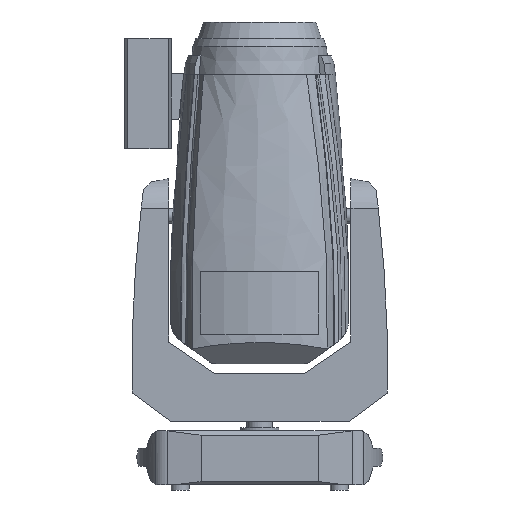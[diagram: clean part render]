
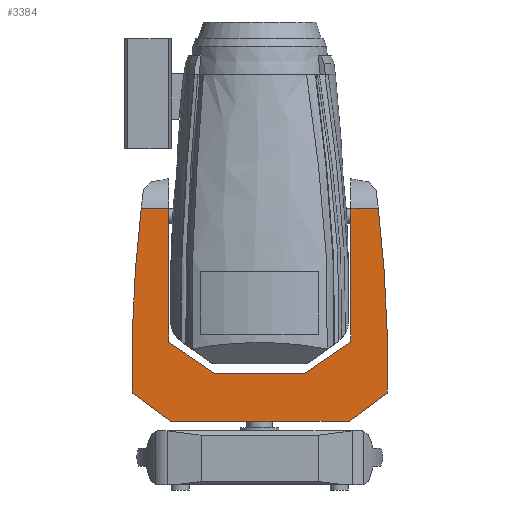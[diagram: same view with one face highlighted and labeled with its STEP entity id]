
A CAD part, left-side view. The second image highlights one B-rep face of the part: STEP entity #3384.
In plain terms, the highlighted planar face has unit normal (-1, 0, 0).
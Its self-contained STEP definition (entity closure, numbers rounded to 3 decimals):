
#315=CIRCLE('',#3700,2158.421);
#316=CIRCLE('',#3701,2158.421);
#733=ORIENTED_EDGE('',*,*,#1566,.T.);
#734=ORIENTED_EDGE('',*,*,#1569,.T.);
#735=ORIENTED_EDGE('',*,*,#1570,.T.);
#736=ORIENTED_EDGE('',*,*,#1571,.T.);
#737=ORIENTED_EDGE('',*,*,#1572,.T.);
#738=ORIENTED_EDGE('',*,*,#1573,.T.);
#739=ORIENTED_EDGE('',*,*,#1559,.T.);
#740=ORIENTED_EDGE('',*,*,#1574,.T.);
#741=ORIENTED_EDGE('',*,*,#1575,.T.);
#742=ORIENTED_EDGE('',*,*,#1576,.F.);
#743=ORIENTED_EDGE('',*,*,#1577,.T.);
#744=ORIENTED_EDGE('',*,*,#1578,.T.);
#1559=EDGE_CURVE('',#2010,#2011,#2323,.T.);
#1566=EDGE_CURVE('',#2018,#2017,#2324,.T.);
#1569=EDGE_CURVE('',#2017,#2020,#2325,.T.);
#1570=EDGE_CURVE('',#2020,#2021,#2326,.T.);
#1571=EDGE_CURVE('',#2021,#2022,#2327,.T.);
#1572=EDGE_CURVE('',#2022,#2023,#2328,.T.);
#1573=EDGE_CURVE('',#2023,#2010,#2329,.T.);
#1574=EDGE_CURVE('',#2011,#2024,#315,.T.);
#1575=EDGE_CURVE('',#2024,#2025,#2330,.T.);
#1576=EDGE_CURVE('',#2026,#2025,#2331,.T.);
#1577=EDGE_CURVE('',#2026,#2027,#2332,.T.);
#1578=EDGE_CURVE('',#2027,#2018,#316,.T.);
#2010=VERTEX_POINT('',#5365);
#2011=VERTEX_POINT('',#5366);
#2017=VERTEX_POINT('',#5385);
#2018=VERTEX_POINT('',#5387);
#2020=VERTEX_POINT('',#5399);
#2021=VERTEX_POINT('',#5401);
#2022=VERTEX_POINT('',#5403);
#2023=VERTEX_POINT('',#5405);
#2024=VERTEX_POINT('',#5408);
#2025=VERTEX_POINT('',#5410);
#2026=VERTEX_POINT('',#5412);
#2027=VERTEX_POINT('',#5414);
#2323=LINE('',#5364,#2570);
#2324=LINE('',#5386,#2571);
#2325=LINE('',#5398,#2572);
#2326=LINE('',#5400,#2573);
#2327=LINE('',#5402,#2574);
#2328=LINE('',#5404,#2575);
#2329=LINE('',#5406,#2576);
#2330=LINE('',#5409,#2577);
#2331=LINE('',#5411,#2578);
#2332=LINE('',#5413,#2579);
#2570=VECTOR('',#4234,1000.);
#2571=VECTOR('',#4247,1000.);
#2572=VECTOR('',#4252,1000.);
#2573=VECTOR('',#4253,1000.);
#2574=VECTOR('',#4254,1000.);
#2575=VECTOR('',#4255,1000.);
#2576=VECTOR('',#4256,1000.);
#2577=VECTOR('',#4259,1000.);
#2578=VECTOR('',#4260,1000.);
#2579=VECTOR('',#4261,1000.);
#2817=EDGE_LOOP('',(#733,#734,#735,#736,#737,#738,#739,#740,#741,#742,#743,
#744));
#3052=FACE_BOUND('',#2817,.T.);
#3239=PLANE('',#3699);
#3384=ADVANCED_FACE('',(#3052),#3239,.T.);
#3699=AXIS2_PLACEMENT_3D('',#5397,#4250,#4251);
#3700=AXIS2_PLACEMENT_3D('',#5407,#4257,#4258);
#3701=AXIS2_PLACEMENT_3D('',#5415,#4262,#4263);
#4234=DIRECTION('',(0.,1.,0.));
#4247=DIRECTION('',(0.,1.,0.));
#4250=DIRECTION('',(-1.,0.,0.));
#4251=DIRECTION('',(0.,0.,1.));
#4252=DIRECTION('',(0.,0.,-1.));
#4253=DIRECTION('',(0.,0.826,-0.564));
#4254=DIRECTION('',(0.,1.,0.));
#4255=DIRECTION('',(0.,0.826,0.564));
#4256=DIRECTION('',(0.,0.,1.));
#4257=DIRECTION('',(-1.,0.,0.));
#4258=DIRECTION('',(0.,0.,1.));
#4259=DIRECTION('',(0.,-0.805,-0.593));
#4260=DIRECTION('',(0.,1.,0.));
#4261=DIRECTION('',(0.,-0.805,0.593));
#4262=DIRECTION('',(-1.,0.,0.));
#4263=DIRECTION('',(0.,0.,1.));
#5364=CARTESIAN_POINT('',(-56.772,-225.,422.833));
#5365=CARTESIAN_POINT('',(-56.772,142.712,422.833));
#5366=CARTESIAN_POINT('',(-56.772,185.433,422.833));
#5385=CARTESIAN_POINT('',(-56.772,-142.712,422.833));
#5386=CARTESIAN_POINT('',(-56.772,-225.,422.833));
#5387=CARTESIAN_POINT('',(-56.772,-185.433,422.833));
#5397=CARTESIAN_POINT('',(-56.772,-225.,89.663));
#5398=CARTESIAN_POINT('',(-56.772,-142.712,89.663));
#5399=CARTESIAN_POINT('',(-56.772,-142.712,213.541));
#5400=CARTESIAN_POINT('',(-56.772,-141.122,212.455));
#5401=CARTESIAN_POINT('',(-56.772,-70.61,164.289));
#5402=CARTESIAN_POINT('',(-56.772,-225.,164.289));
#5403=CARTESIAN_POINT('',(-56.772,70.61,164.289));
#5404=CARTESIAN_POINT('',(-56.772,-165.707,2.863));
#5405=CARTESIAN_POINT('',(-56.772,142.712,213.541));
#5406=CARTESIAN_POINT('',(-56.772,142.712,89.663));
#5407=CARTESIAN_POINT('',(-56.772,-1958.344,171.826));
#5408=CARTESIAN_POINT('',(-56.772,199.742,133.772));
#5409=CARTESIAN_POINT('',(-56.772,-96.853,-84.482));
#5410=CARTESIAN_POINT('',(-56.772,139.801,89.663));
#5411=CARTESIAN_POINT('',(-56.772,-225.,89.663));
#5412=CARTESIAN_POINT('',(-56.772,-139.801,89.663));
#5413=CARTESIAN_POINT('',(-56.772,-195.071,130.335));
#5414=CARTESIAN_POINT('',(-56.772,-199.742,133.772));
#5415=CARTESIAN_POINT('',(-56.772,1958.344,171.826));
